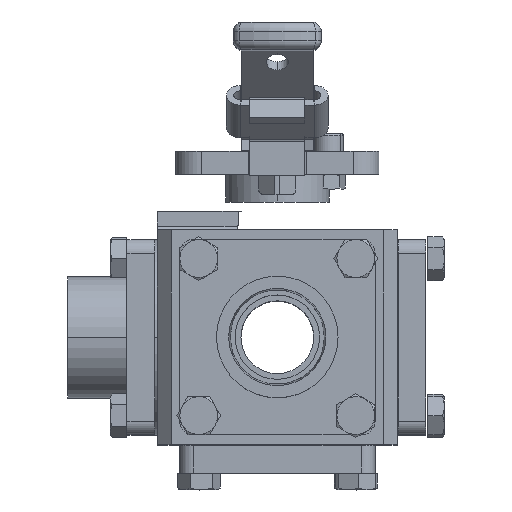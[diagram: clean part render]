
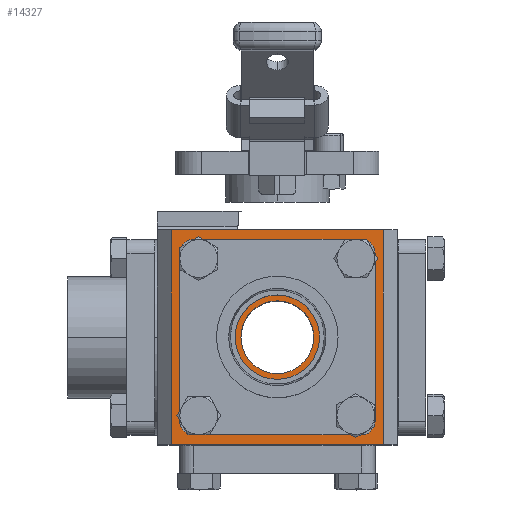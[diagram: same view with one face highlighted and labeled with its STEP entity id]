
A CAD part, top view. The second image highlights one B-rep face of the part: STEP entity #14327.
In plain terms, the highlighted planar face has unit normal (0, 0, 1).
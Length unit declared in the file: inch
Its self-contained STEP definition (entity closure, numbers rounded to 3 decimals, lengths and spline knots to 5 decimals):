
#174 = AXIS2_PLACEMENT_3D ( 'NONE', #14316, #10093, #22742 ) ;
#329 = FACE_BOUND ( 'NONE', #2331, .T. ) ;
#333 = ORIENTED_EDGE ( 'NONE', *, *, #21637, .T. ) ;
#535 = ORIENTED_EDGE ( 'NONE', *, *, #24954, .T. ) ;
#633 = CARTESIAN_POINT ( 'NONE',  ( 1.62402, -1.454, 1.62402 ) ) ;
#1487 = DIRECTION ( 'NONE',  ( 0., 0., 1. ) ) ;
#1758 = EDGE_CURVE ( 'NONE', #17661, #10843, #4688, .T. ) ;
#1820 = ORIENTED_EDGE ( 'NONE', *, *, #9214, .F. ) ;
#1946 = CARTESIAN_POINT ( 'NONE',  ( -1.0625, 1.0625, 1.62402 ) ) ;
#2331 = EDGE_LOOP ( 'NONE', ( #26932, #24609 ) ) ;
#2539 = DIRECTION ( 'NONE',  ( -1., 0., 0. ) ) ;
#2650 = VERTEX_POINT ( 'NONE', #3307 ) ;
#2807 = CARTESIAN_POINT ( 'NONE',  ( 1.2003, -1.0625, 1.62402 ) ) ;
#2864 = DIRECTION ( 'NONE',  ( -1., 0., 0. ) ) ;
#3019 = DIRECTION ( 'NONE',  ( 1., 0., 0. ) ) ;
#3142 = LINE ( 'NONE', #633, #16201 ) ;
#3307 = CARTESIAN_POINT ( 'NONE',  ( -0.9247, -1.0625, 1.62402 ) ) ;
#3343 = CARTESIAN_POINT ( 'NONE',  ( -1.2003, 1.0625, 1.62402 ) ) ;
#3517 = FACE_BOUND ( 'NONE', #13515, .T. ) ;
#3743 = DIRECTION ( 'NONE',  ( 1., 0., 0. ) ) ;
#3783 = DIRECTION ( 'NONE',  ( 0., 0., 1. ) ) ;
#3790 = CARTESIAN_POINT ( 'NONE',  ( 1.0625, -1.0625, 1.62402 ) ) ;
#3983 = CARTESIAN_POINT ( 'NONE',  ( -1.43652, 1.454, 1.62402 ) ) ;
#4035 = DIRECTION ( 'NONE',  ( 1., 0., 0. ) ) ;
#4205 = AXIS2_PLACEMENT_3D ( 'NONE', #5784, #24423, #3743 ) ;
#4301 = DIRECTION ( 'NONE',  ( 0., 0., 1. ) ) ;
#4627 = LINE ( 'NONE', #6397, #5733 ) ;
#4688 = CIRCLE ( 'NONE', #23746, 0.1378 ) ;
#4750 = CARTESIAN_POINT ( 'NONE',  ( -1.0625, -1.0625, 1.62402 ) ) ;
#4942 = ORIENTED_EDGE ( 'NONE', *, *, #8197, .F. ) ;
#5314 = EDGE_CURVE ( 'NONE', #10843, #17661, #20164, .T. ) ;
#5413 = ORIENTED_EDGE ( 'NONE', *, *, #18591, .F. ) ;
#5537 = VERTEX_POINT ( 'NONE', #7233 ) ;
#5563 = CIRCLE ( 'NONE', #7771, 0.1378 ) ;
#5733 = VECTOR ( 'NONE', #17443, 39.37008 ) ;
#5784 = CARTESIAN_POINT ( 'NONE',  ( -1.0625, -1.0625, 1.62402 ) ) ;
#5799 = DIRECTION ( 'NONE',  ( 0., 0., 1. ) ) ;
#5843 = CIRCLE ( 'NONE', #174, 0.1378 ) ;
#5850 = VERTEX_POINT ( 'NONE', #24821 ) ;
#5948 = ORIENTED_EDGE ( 'NONE', *, *, #5314, .F. ) ;
#5963 = EDGE_LOOP ( 'NONE', ( #6045, #333, #5413, #535 ) ) ;
#6027 = CIRCLE ( 'NONE', #10966, 0.1378 ) ;
#6035 = CIRCLE ( 'NONE', #26472, 0.49213 ) ;
#6045 = ORIENTED_EDGE ( 'NONE', *, *, #25920, .T. ) ;
#6074 = LINE ( 'NONE', #20691, #22876 ) ;
#6343 = AXIS2_PLACEMENT_3D ( 'NONE', #4750, #13267, #21684 ) ;
#6397 = CARTESIAN_POINT ( 'NONE',  ( 1.62402, 1.454, 1.62402 ) ) ;
#7233 = CARTESIAN_POINT ( 'NONE',  ( 0.49213, 0., 1.62402 ) ) ;
#7398 = EDGE_CURVE ( 'NONE', #18355, #2650, #23241, .T. ) ;
#7710 = ORIENTED_EDGE ( 'NONE', *, *, #19965, .F. ) ;
#7771 = AXIS2_PLACEMENT_3D ( 'NONE', #24726, #3783, #12263 ) ;
#8197 = EDGE_CURVE ( 'NONE', #8611, #9773, #5563, .T. ) ;
#8572 = CIRCLE ( 'NONE', #6343, 0.1378 ) ;
#8600 = DIRECTION ( 'NONE',  ( 0., 0., -1. ) ) ;
#8604 = VERTEX_POINT ( 'NONE', #22006 ) ;
#8611 = VERTEX_POINT ( 'NONE', #16216 ) ;
#9214 = EDGE_CURVE ( 'NONE', #5850, #23887, #6027, .T. ) ;
#9744 = CARTESIAN_POINT ( 'NONE',  ( 1.43652, 1.454, 1.62402 ) ) ;
#9773 = VERTEX_POINT ( 'NONE', #12501 ) ;
#10093 = DIRECTION ( 'NONE',  ( 0., 0., 1. ) ) ;
#10170 = VERTEX_POINT ( 'NONE', #14566 ) ;
#10199 = CARTESIAN_POINT ( 'NONE',  ( 0., 0., 1.62402 ) ) ;
#10420 = CARTESIAN_POINT ( 'NONE',  ( 1.0625, -1.0625, 1.62402 ) ) ;
#10630 = AXIS2_PLACEMENT_3D ( 'NONE', #15067, #8600, #2539 ) ;
#10726 = FACE_BOUND ( 'NONE', #22418, .T. ) ;
#10825 = CARTESIAN_POINT ( 'NONE',  ( -0.9247, 1.0625, 1.62402 ) ) ;
#10843 = VERTEX_POINT ( 'NONE', #10825 ) ;
#10966 = AXIS2_PLACEMENT_3D ( 'NONE', #10420, #5799, #26934 ) ;
#11026 = VERTEX_POINT ( 'NONE', #3983 ) ;
#11331 = LINE ( 'NONE', #9744, #24742 ) ;
#11460 = CIRCLE ( 'NONE', #26952, 0.1378 ) ;
#12251 = EDGE_LOOP ( 'NONE', ( #4942, #24888 ) ) ;
#12263 = DIRECTION ( 'NONE',  ( 1., 0., 0. ) ) ;
#12501 = CARTESIAN_POINT ( 'NONE',  ( 0.9247, 1.0625, 1.62402 ) ) ;
#12644 = AXIS2_PLACEMENT_3D ( 'NONE', #15533, #25911, #21874 ) ;
#13112 = PLANE ( 'NONE',  #10630 ) ;
#13267 = DIRECTION ( 'NONE',  ( 0., 0., 1. ) ) ;
#13435 = VERTEX_POINT ( 'NONE', #23611 ) ;
#13515 = EDGE_LOOP ( 'NONE', ( #5948, #21623 ) ) ;
#14280 = DIRECTION ( 'NONE',  ( 1., 0., 0. ) ) ;
#14316 = CARTESIAN_POINT ( 'NONE',  ( 1.0625, 1.0625, 1.62402 ) ) ;
#14327 = ADVANCED_FACE ( 'NONE', ( #22515, #3517, #10726, #21675, #329, #25566 ), #13112, .F. ) ;
#14509 = DIRECTION ( 'NONE',  ( 1., 0., 0. ) ) ;
#14566 = CARTESIAN_POINT ( 'NONE',  ( -0.49213, 0., 1.62402 ) ) ;
#15067 = CARTESIAN_POINT ( 'NONE',  ( 1.62402, 1.454, 1.62402 ) ) ;
#15263 = CARTESIAN_POINT ( 'NONE',  ( 0., 0., 1.62402 ) ) ;
#15533 = CARTESIAN_POINT ( 'NONE',  ( -1.0625, 1.0625, 1.62402 ) ) ;
#16034 = CARTESIAN_POINT ( 'NONE',  ( -1.43652, -1.454, 1.62402 ) ) ;
#16201 = VECTOR ( 'NONE', #2864, 39.37008 ) ;
#16216 = CARTESIAN_POINT ( 'NONE',  ( 1.2003, 1.0625, 1.62402 ) ) ;
#16310 = DIRECTION ( 'NONE',  ( 0., 0., 1. ) ) ;
#16426 = EDGE_CURVE ( 'NONE', #23887, #5850, #11460, .T. ) ;
#17112 = ORIENTED_EDGE ( 'NONE', *, *, #16426, .F. ) ;
#17443 = DIRECTION ( 'NONE',  ( -1., 0., 0. ) ) ;
#17661 = VERTEX_POINT ( 'NONE', #3343 ) ;
#18355 = VERTEX_POINT ( 'NONE', #21625 ) ;
#18591 = EDGE_CURVE ( 'NONE', #13435, #23724, #3142, .T. ) ;
#18952 = EDGE_CURVE ( 'NONE', #9773, #8611, #5843, .T. ) ;
#19929 = CIRCLE ( 'NONE', #25655, 0.49213 ) ;
#19965 = EDGE_CURVE ( 'NONE', #2650, #18355, #8572, .T. ) ;
#20164 = CIRCLE ( 'NONE', #12644, 0.1378 ) ;
#20691 = CARTESIAN_POINT ( 'NONE',  ( -1.43652, 1.454, 1.62402 ) ) ;
#21488 = ORIENTED_EDGE ( 'NONE', *, *, #7398, .F. ) ;
#21623 = ORIENTED_EDGE ( 'NONE', *, *, #1758, .F. ) ;
#21625 = CARTESIAN_POINT ( 'NONE',  ( -1.2003, -1.0625, 1.62402 ) ) ;
#21637 = EDGE_CURVE ( 'NONE', #11026, #23724, #6074, .T. ) ;
#21675 = FACE_BOUND ( 'NONE', #26540, .T. ) ;
#21684 = DIRECTION ( 'NONE',  ( 1., 0., 0. ) ) ;
#21856 = DIRECTION ( 'NONE',  ( 0., 1., 0. ) ) ;
#21874 = DIRECTION ( 'NONE',  ( 1., 0., 0. ) ) ;
#22006 = CARTESIAN_POINT ( 'NONE',  ( 1.43652, 1.454, 1.62402 ) ) ;
#22122 = EDGE_CURVE ( 'NONE', #10170, #5537, #6035, .T. ) ;
#22418 = EDGE_LOOP ( 'NONE', ( #7710, #21488 ) ) ;
#22515 = FACE_BOUND ( 'NONE', #12251, .T. ) ;
#22742 = DIRECTION ( 'NONE',  ( 1., 0., 0. ) ) ;
#22876 = VECTOR ( 'NONE', #27359, 39.37008 ) ;
#23241 = CIRCLE ( 'NONE', #4205, 0.1378 ) ;
#23611 = CARTESIAN_POINT ( 'NONE',  ( 1.43652, -1.454, 1.62402 ) ) ;
#23682 = DIRECTION ( 'NONE',  ( 0., 0., 1. ) ) ;
#23724 = VERTEX_POINT ( 'NONE', #16034 ) ;
#23746 = AXIS2_PLACEMENT_3D ( 'NONE', #1946, #4301, #4035 ) ;
#23887 = VERTEX_POINT ( 'NONE', #2807 ) ;
#24423 = DIRECTION ( 'NONE',  ( 0., 0., 1. ) ) ;
#24609 = ORIENTED_EDGE ( 'NONE', *, *, #22122, .F. ) ;
#24647 = EDGE_CURVE ( 'NONE', #5537, #10170, #19929, .T. ) ;
#24726 = CARTESIAN_POINT ( 'NONE',  ( 1.0625, 1.0625, 1.62402 ) ) ;
#24742 = VECTOR ( 'NONE', #21856, 39.37008 ) ;
#24821 = CARTESIAN_POINT ( 'NONE',  ( 0.9247, -1.0625, 1.62402 ) ) ;
#24888 = ORIENTED_EDGE ( 'NONE', *, *, #18952, .F. ) ;
#24954 = EDGE_CURVE ( 'NONE', #13435, #8604, #11331, .T. ) ;
#25566 = FACE_OUTER_BOUND ( 'NONE', #5963, .T. ) ;
#25655 = AXIS2_PLACEMENT_3D ( 'NONE', #10199, #1487, #14280 ) ;
#25911 = DIRECTION ( 'NONE',  ( 0., 0., 1. ) ) ;
#25920 = EDGE_CURVE ( 'NONE', #8604, #11026, #4627, .T. ) ;
#26472 = AXIS2_PLACEMENT_3D ( 'NONE', #15263, #23682, #3019 ) ;
#26540 = EDGE_LOOP ( 'NONE', ( #17112, #1820 ) ) ;
#26932 = ORIENTED_EDGE ( 'NONE', *, *, #24647, .F. ) ;
#26934 = DIRECTION ( 'NONE',  ( 1., 0., 0. ) ) ;
#26952 = AXIS2_PLACEMENT_3D ( 'NONE', #3790, #16310, #14509 ) ;
#27359 = DIRECTION ( 'NONE',  ( 0., -1., 0. ) ) ;
